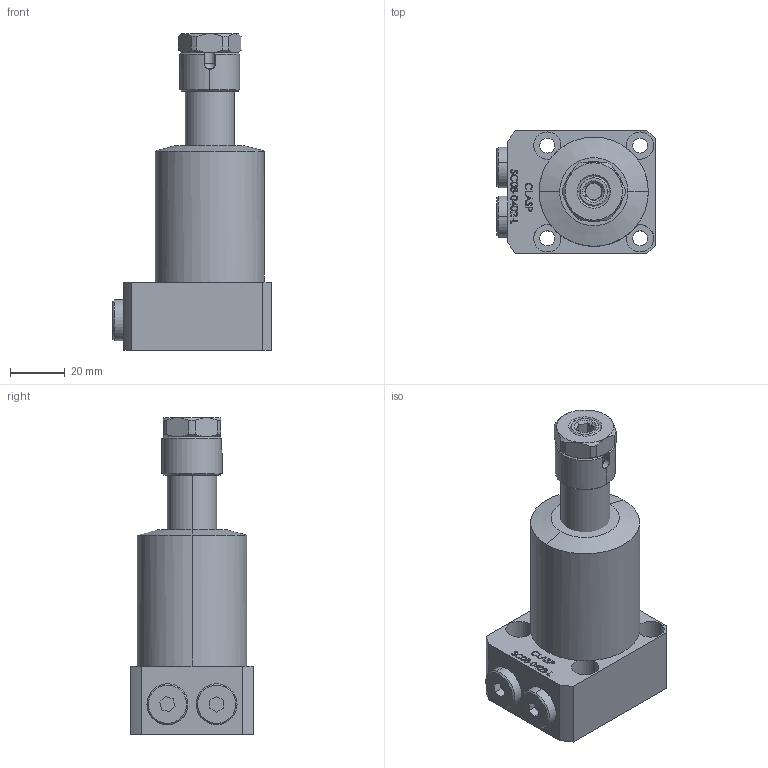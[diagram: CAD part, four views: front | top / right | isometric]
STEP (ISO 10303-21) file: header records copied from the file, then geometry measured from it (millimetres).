
FILE_DESCRIPTION (( 'STEP AP203' ), '1' );
FILE_NAME ('SC08-0402-L.STEP', '2022-07-08T17:16:56', ( '' ), ( '' ), 'SwSTEP 2.0', 'SolidWorks 2017', '' );
FILE_SCHEMA (( 'CONFIG_CONTROL_DESIGN' ));
Length unit declared in the file: millimetre
Products named in the file (6): SC-08-0402-L-04 sleeve; SC-08-0402-L-03-nut; SC08-0402-L; SC-08-0402-L BODY; SC-08-0402-L-Piston; SC-08-0402-L-05 plug
Assembly tree (6 placements, depth 2):
  SC08-0402-L
    SC-08-0402-L BODY
    SC-08-0402-L-Piston
    SC-08-0402-L-05 plug  x2
    SC-08-0402-L-04 sleeve
    SC-08-0402-L-03-nut
Bounding box: 58 x 45 x 116 mm (x, y, z)
Volume: 138528.6 mm3; surface area: 28437.2 mm2
Topology: 6 solids, 6 shells, 374 faces, 922 edges, 597 vertices
Faces by surface type: plane 163, bspline 104, cylinder 64, cone 41, sphere 2
Entity records: 17631 total; most frequent: CARTESIAN_POINT 9071, ORIENTED_EDGE 1776, DIRECTION 1347, EDGE_CURVE 888, VERTEX_POINT 576, VECTOR 451, LINE 451, AXIS2_PLACEMENT_3D 448
